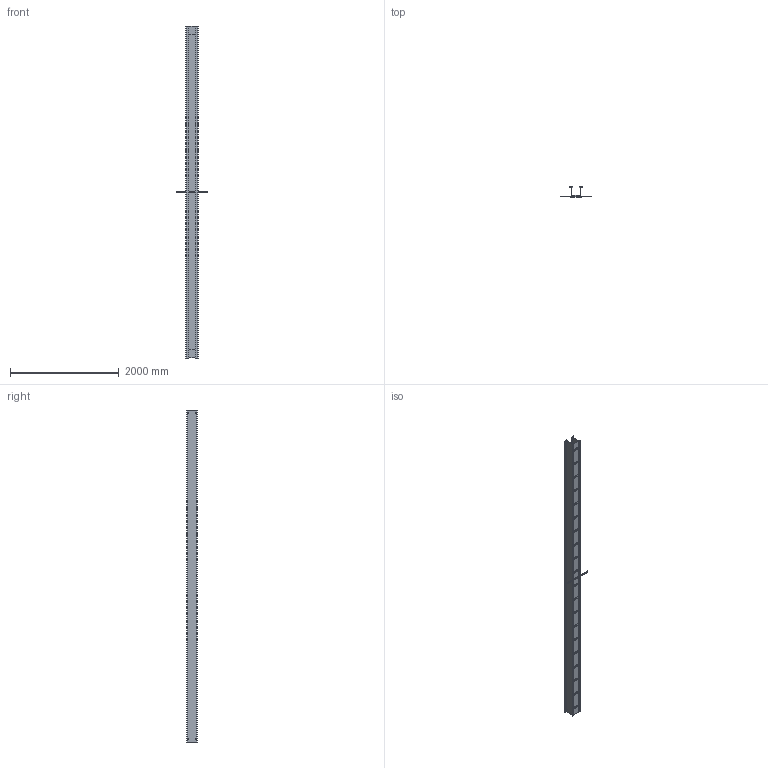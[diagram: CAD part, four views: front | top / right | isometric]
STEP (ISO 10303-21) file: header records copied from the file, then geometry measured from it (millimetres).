
FILE_DESCRIPTION((''),'2;1');
FILE_NAME('AH3706S240_ASM','2010-02-03T',('erouzier'),(''),'PRO/ENGINEER BY PARAMETRIC TECHNOLOGY CORPORATION, 2008510','PRO/ENGINEER BY PARAMETRIC TECHNOLOGY CORPORATION, 2008510','');
FILE_SCHEMA(('CONFIG_CONTROL_DESIGN'));
Length unit declared in the file: inch
Products named in the file (25): CDS002158-012_AF3; CDS002158-012_AF4; CDS002159L6_AF0; CDS002159L6_AF1; CDS002159L6_AF2; CDS002159L6_AF3; CDS002159L6_AF4; CDS002159L6_AF5; CDS002159L6_AF6; CDS002159L6_AF7; CDS002159L6_AF8; CDS002159L6_AF9; CDS002159L6_AF10; CDS002159L6_AF11; CDS002159L6_AF12; CDS002159L6_AF13; CDS002159L6_AF14; CDS002159L6_AF15; CDS002159L6_AF16; CDS002159L6_AF17; CDS002159L6_AF18; CDS002159L6_AF19; ED04587-017; ABW24SBJ; AH3706S240_ASM
Assembly tree (25 placements, depth 2):
  AH3706S240_ASM
    CDS002158-012_AF3
    CDS002158-012_AF4
    CDS002159L6_AF0
    CDS002159L6_AF1
    CDS002159L6_AF2
    CDS002159L6_AF3
    CDS002159L6_AF4
    CDS002159L6_AF5
    CDS002159L6_AF6
    CDS002159L6_AF7
    CDS002159L6_AF8
    CDS002159L6_AF9
    CDS002159L6_AF10
    CDS002159L6_AF11
    CDS002159L6_AF12
    CDS002159L6_AF13
    CDS002159L6_AF14
    CDS002159L6_AF15
    CDS002159L6_AF16
    CDS002159L6_AF17
    CDS002159L6_AF18
    CDS002159L6_AF19
    ED04587-017  x2
    ABW24SBJ
Bounding box: 571.5 x 186.44 x 6096 mm (x, y, z)
Volume: 14066459.5 mm3; surface area: 10379151.3 mm2
Topology: 25 solids, 26 shells, 715 faces, 1996 edges, 1332 vertices
Faces by surface type: plane 489, cylinder 226
Entity records: 23389 total; most frequent: CARTESIAN_POINT 4067, ORIENTED_EDGE 3964, DIRECTION 3954, EDGE_CURVE 1984, VECTOR 1532, LINE 1532, VERTEX_POINT 1324, AXIS2_PLACEMENT_3D 1211
